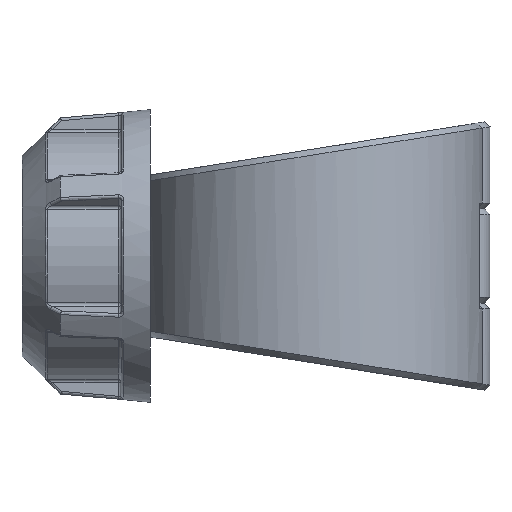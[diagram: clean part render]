
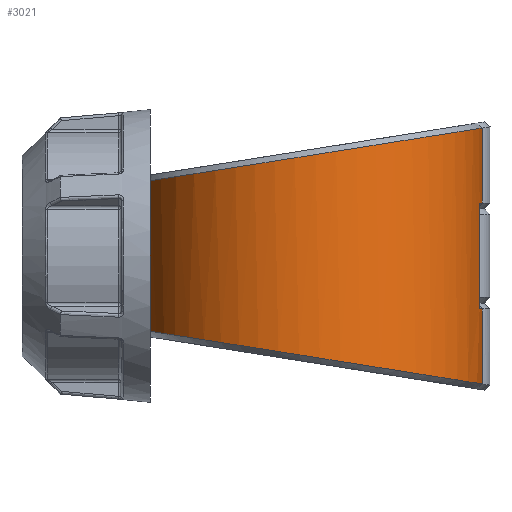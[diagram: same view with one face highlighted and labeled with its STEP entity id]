
A CAD part, left-side view. The second image highlights one B-rep face of the part: STEP entity #3021.
In plain terms, the highlighted cylindrical face has radius 59.5 mm (diameter 119 mm), a partial arc.
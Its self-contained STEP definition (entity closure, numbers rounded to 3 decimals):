
#212=FACE_OUTER_BOUND('',#416,.T.);
#416=EDGE_LOOP('',(#2055,#2056,#2057,#2058,#2059,#2060,#2061,#2062,#2063,
#2064,#2065,#2066));
#623=CIRCLE('',#3251,59.5);
#626=CIRCLE('',#3256,59.5);
#805=B_SPLINE_CURVE_WITH_KNOTS('',3,(#4524,#4525,#4526,#4527),
 .UNSPECIFIED.,.F.,.F.,(4,4),(-0.002,0.),.UNSPECIFIED.);
#806=B_SPLINE_CURVE_WITH_KNOTS('',3,(#4529,#4530,#4531,#4532),
 .UNSPECIFIED.,.F.,.F.,(4,4),(-3.037,-3.037),
 .UNSPECIFIED.);
#807=B_SPLINE_CURVE_WITH_KNOTS('',3,(#4533,#4534,#4535,#4536,#4537,#4538,
#4539,#4540,#4541,#4542),.UNSPECIFIED.,.F.,.F.,(4,1,1,1,1,1,1,4),(0.316,
0.596,1.005,1.415,1.824,2.233,
2.642,3.037),.UNSPECIFIED.);
#808=B_SPLINE_CURVE_WITH_KNOTS('',3,(#4544,#4545,#4546,#4547,#4548,#4549,
#4550,#4551,#4552,#4553),.UNSPECIFIED.,.F.,.F.,(4,1,1,1,1,1,1,4),(-3.037,
-2.642,-2.233,-1.824,-1.415,
-1.005,-0.596,-0.316),.UNSPECIFIED.);
#809=B_SPLINE_CURVE_WITH_KNOTS('',3,(#4555,#4556,#4557,#4558),
 .UNSPECIFIED.,.F.,.F.,(4,4),(3.037,3.037),
 .UNSPECIFIED.);
#810=B_SPLINE_CURVE_WITH_KNOTS('',3,(#4560,#4561,#4562,#4563),
 .UNSPECIFIED.,.F.,.F.,(4,4),(-0.435,-0.433),
 .UNSPECIFIED.);
#972=LINE('',#4397,#1093);
#979=LINE('',#4458,#1100);
#985=LINE('',#4522,#1106);
#986=LINE('',#4564,#1107);
#1093=VECTOR('',#3575,10.);
#1100=VECTOR('',#3592,10.);
#1106=VECTOR('',#3638,10.);
#1107=VECTOR('',#3639,10.);
#1216=VERTEX_POINT('',#4376);
#1217=VERTEX_POINT('',#4396);
#1229=VERTEX_POINT('',#4452);
#1230=VERTEX_POINT('',#4457);
#1236=VERTEX_POINT('',#4478);
#1239=VERTEX_POINT('',#4499);
#1243=VERTEX_POINT('',#4521);
#1244=VERTEX_POINT('',#4523);
#1245=VERTEX_POINT('',#4528);
#1246=VERTEX_POINT('',#4543);
#1247=VERTEX_POINT('',#4554);
#1248=VERTEX_POINT('',#4559);
#1510=EDGE_CURVE('',#1216,#1217,#972,.T.);
#1524=EDGE_CURVE('',#1229,#1230,#979,.T.);
#1537=EDGE_CURVE('',#1236,#1229,#623,.T.);
#1542=EDGE_CURVE('',#1230,#1239,#626,.T.);
#1548=EDGE_CURVE('',#1243,#1236,#985,.T.);
#1549=EDGE_CURVE('',#1244,#1243,#805,.T.);
#1550=EDGE_CURVE('',#1244,#1245,#806,.T.);
#1551=EDGE_CURVE('',#1217,#1245,#807,.T.);
#1552=EDGE_CURVE('',#1246,#1216,#808,.T.);
#1553=EDGE_CURVE('',#1246,#1247,#809,.T.);
#1554=EDGE_CURVE('',#1248,#1247,#810,.T.);
#1555=EDGE_CURVE('',#1239,#1248,#986,.T.);
#2055=ORIENTED_EDGE('',*,*,#1542,.F.);
#2056=ORIENTED_EDGE('',*,*,#1524,.F.);
#2057=ORIENTED_EDGE('',*,*,#1537,.F.);
#2058=ORIENTED_EDGE('',*,*,#1548,.F.);
#2059=ORIENTED_EDGE('',*,*,#1549,.F.);
#2060=ORIENTED_EDGE('',*,*,#1550,.T.);
#2061=ORIENTED_EDGE('',*,*,#1551,.F.);
#2062=ORIENTED_EDGE('',*,*,#1510,.F.);
#2063=ORIENTED_EDGE('',*,*,#1552,.F.);
#2064=ORIENTED_EDGE('',*,*,#1553,.T.);
#2065=ORIENTED_EDGE('',*,*,#1554,.F.);
#2066=ORIENTED_EDGE('',*,*,#1555,.F.);
#2962=CYLINDRICAL_SURFACE('',#3261,59.5);
#3021=ADVANCED_FACE('',(#212),#2962,.T.);
#3251=AXIS2_PLACEMENT_3D('',#4494,#3614,#3615);
#3256=AXIS2_PLACEMENT_3D('',#4508,#3624,#3625);
#3261=AXIS2_PLACEMENT_3D('',#4520,#3636,#3637);
#3575=DIRECTION('',(0.,0.,1.));
#3592=DIRECTION('',(0.,0.,-1.));
#3614=DIRECTION('center_axis',(0.,0.,-1.));
#3615=DIRECTION('ref_axis',(0.312,-0.95,0.));
#3624=DIRECTION('center_axis',(0.,0.,1.));
#3625=DIRECTION('ref_axis',(0.312,-0.95,0.));
#3636=DIRECTION('center_axis',(0.,0.,1.));
#3637=DIRECTION('ref_axis',(-0.312,0.95,0.));
#3638=DIRECTION('',(0.,0.,-1.));
#3639=DIRECTION('',(0.,0.,-1.));
#4376=CARTESIAN_POINT('',(-18.579,56.525,-26.198));
#4396=CARTESIAN_POINT('',(-18.579,56.525,26.198));
#4397=CARTESIAN_POINT('',(-18.579,56.525,0.));
#4452=CARTESIAN_POINT('',(-12.115,-58.254,18.45));
#4457=CARTESIAN_POINT('',(-12.115,-58.254,-18.45));
#4458=CARTESIAN_POINT('',(-12.115,-58.254,0.));
#4478=CARTESIAN_POINT('',(-6.19,-59.177,18.45));
#4494=CARTESIAN_POINT('Origin',(0.,0.,18.45));
#4499=CARTESIAN_POINT('',(-6.19,-59.177,-18.45));
#4508=CARTESIAN_POINT('Origin',(0.,0.,-18.45));
#4520=CARTESIAN_POINT('Origin',(0.,0.,0.));
#4521=CARTESIAN_POINT('',(-6.19,-59.177,44.557));
#4522=CARTESIAN_POINT('',(-6.19,-59.177,0.));
#4523=CARTESIAN_POINT('',(-6.17,-59.179,44.571));
#4524=CARTESIAN_POINT('Ctrl Pts',(-6.17,-59.179,44.571));
#4525=CARTESIAN_POINT('Ctrl Pts',(-6.176,-59.178,44.566));
#4526=CARTESIAN_POINT('Ctrl Pts',(-6.183,-59.177,44.562));
#4527=CARTESIAN_POINT('Ctrl Pts',(-6.19,-59.177,44.557));
#4528=CARTESIAN_POINT('',(-6.19,-59.177,44.571));
#4529=CARTESIAN_POINT('Ctrl Pts',(-6.17,-59.179,44.571));
#4530=CARTESIAN_POINT('Ctrl Pts',(-6.177,-59.178,44.571));
#4531=CARTESIAN_POINT('Ctrl Pts',(-6.183,-59.178,44.571));
#4532=CARTESIAN_POINT('Ctrl Pts',(-6.19,-59.177,44.571));
#4533=CARTESIAN_POINT('Ctrl Pts',(-18.578,56.522,26.198));
#4534=CARTESIAN_POINT('Ctrl Pts',(-23.882,54.776,26.474));
#4535=CARTESIAN_POINT('Ctrl Pts',(-36.33,48.65,27.442));
#4536=CARTESIAN_POINT('Ctrl Pts',(-51.823,32.556,29.987));
#4537=CARTESIAN_POINT('Ctrl Pts',(-60.49,9.2,33.688));
#4538=CARTESIAN_POINT('Ctrl Pts',(-59.157,-15.624,37.631));
#4539=CARTESIAN_POINT('Ctrl Pts',(-48.081,-37.819,41.164));
#4540=CARTESIAN_POINT('Ctrl Pts',(-29.378,-53.589,43.678));
#4541=CARTESIAN_POINT('Ctrl Pts',(-13.932,-58.366,44.441));
#4542=CARTESIAN_POINT('Ctrl Pts',(-6.19,-59.177,44.571));
#4543=CARTESIAN_POINT('',(-6.19,-59.177,-44.571));
#4544=CARTESIAN_POINT('Ctrl Pts',(-6.19,-59.177,-44.571));
#4545=CARTESIAN_POINT('Ctrl Pts',(-13.932,-58.366,-44.441));
#4546=CARTESIAN_POINT('Ctrl Pts',(-29.375,-53.586,-43.678));
#4547=CARTESIAN_POINT('Ctrl Pts',(-48.086,-37.823,-41.164));
#4548=CARTESIAN_POINT('Ctrl Pts',(-59.151,-15.622,-37.631));
#4549=CARTESIAN_POINT('Ctrl Pts',(-60.497,9.2,-33.688));
#4550=CARTESIAN_POINT('Ctrl Pts',(-51.819,32.555,-29.987));
#4551=CARTESIAN_POINT('Ctrl Pts',(-36.33,48.65,-27.442));
#4552=CARTESIAN_POINT('Ctrl Pts',(-23.882,54.776,-26.474));
#4553=CARTESIAN_POINT('Ctrl Pts',(-18.578,56.522,-26.198));
#4554=CARTESIAN_POINT('',(-6.17,-59.179,-44.571));
#4555=CARTESIAN_POINT('Ctrl Pts',(-6.19,-59.177,-44.571));
#4556=CARTESIAN_POINT('Ctrl Pts',(-6.183,-59.178,-44.571));
#4557=CARTESIAN_POINT('Ctrl Pts',(-6.177,-59.178,-44.571));
#4558=CARTESIAN_POINT('Ctrl Pts',(-6.17,-59.179,-44.571));
#4559=CARTESIAN_POINT('',(-6.19,-59.177,-44.557));
#4560=CARTESIAN_POINT('Ctrl Pts',(-6.19,-59.177,-44.557));
#4561=CARTESIAN_POINT('Ctrl Pts',(-6.183,-59.177,-44.562));
#4562=CARTESIAN_POINT('Ctrl Pts',(-6.176,-59.178,-44.566));
#4563=CARTESIAN_POINT('Ctrl Pts',(-6.17,-59.179,-44.571));
#4564=CARTESIAN_POINT('',(-6.19,-59.177,0.));
